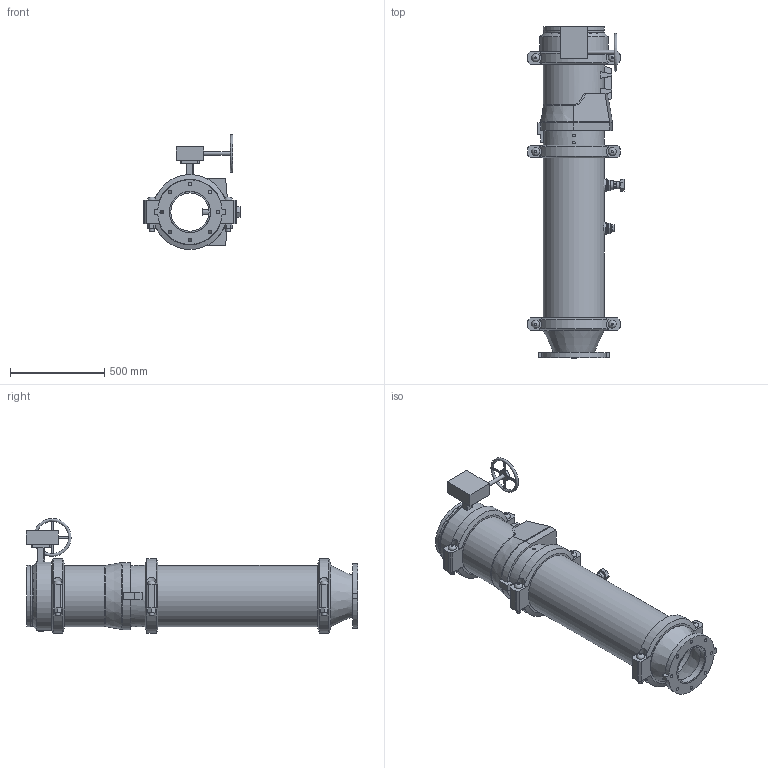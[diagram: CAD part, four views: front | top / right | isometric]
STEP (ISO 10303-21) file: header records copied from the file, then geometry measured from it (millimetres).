
FILE_DESCRIPTION(/* description */ ('VIC DVI PUMP DROP VERT S/380 (OGSxFLG) (S/924-1.25)','CAx-IF Rec.Pracs.---Representation and Presentation of Product Manufacturing Information (PMI)---4.0---2014-10-13'),/* implementation_level */ '2;1');
FILE_NAME(/* name */ 'C:\Users\Public\Documents\Victaulic.Temp\A765\Victaulic_IPS_Vertical DVI_CL 150_Series 380 (OGSxFLG)_924 (1.25)_12.0x08.0 (300x200).stp',/* time_stamp */ '2022-07-25T11:14:55+02:00',/* author */ ('Vjadhav'),/* organization */ ('Victaulic'),/* preprocessor_version */ 'ST-DEVELOPER v18',/* originating_system */ 'Autodesk Inventor 2020',/* authorisation */ '');
FILE_SCHEMA (('AP242_MANAGED_MODEL_BASED_3D_ENGINEERING_MIM_LF { 1 0 10303 442 1 1 4 }'));
Length unit declared in the file: inch
Products named in the file (9): 380_924 (1.25)-12.0x08.0; 741-08.0; 050-12.0x08.0; Pipe-12.0; 779-12.0; 923-10.0x0.75; 924-10.0x01.25; 761-12.0; 077-12.0
Assembly tree (10 placements, depth 2):
  380_924 (1.25)-12.0x08.0
    741-08.0
    050-12.0x08.0
    Pipe-12.0
    779-12.0
    923-10.0x0.75
    924-10.0x01.25
    761-12.0
    077-12.0  x3
Bounding box: 511.05 x 1760.22 x 609.46 mm (x, y, z)
Volume: 38055844.2 mm3; surface area: 5088934.1 mm2
Topology: 10 solids, 18 shells, 508 faces, 1272 edges, 867 vertices
Faces by surface type: plane 310, cylinder 163, cone 20, bspline 8, torus 7
Full cylindrical faces by diameter (mm): 10.922 x4, 13.716 x4, 19.05 x8, 20.066 x1, 21.336 x2, 22.86 x1, 25.4 x12, 26.67 x2, 27.432 x6, 31.75 x1, 38.608 x1, 42.164 x1, 45.974 x4, 48.514 x1, 55.626 x2, 63.079 x1, 70.104 x1, 76.2 x1, 202.717 x1, 214.401 x1, 219.075 x3, 303.225 x2, 304.8 x2, 314.96 x3, 318.287 x7, 323.85 x19, 361.95 x1
Entity records: 13163 total; most frequent: CARTESIAN_POINT 2615, DIRECTION 2145, ORIENTED_EDGE 1964, EDGE_CURVE 982, AXIS2_PLACEMENT_3D 815, VERTEX_POINT 671, LINE 515, VECTOR 515
